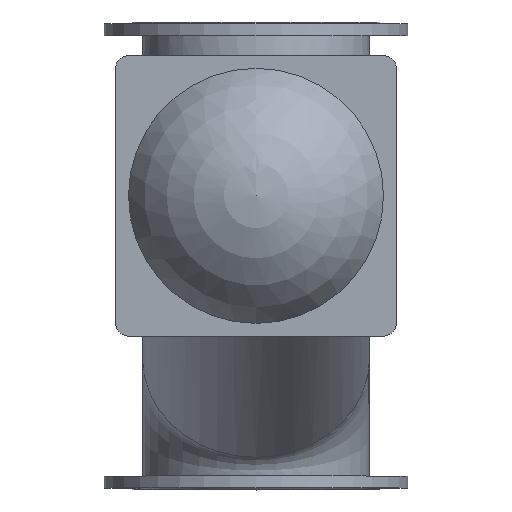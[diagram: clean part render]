
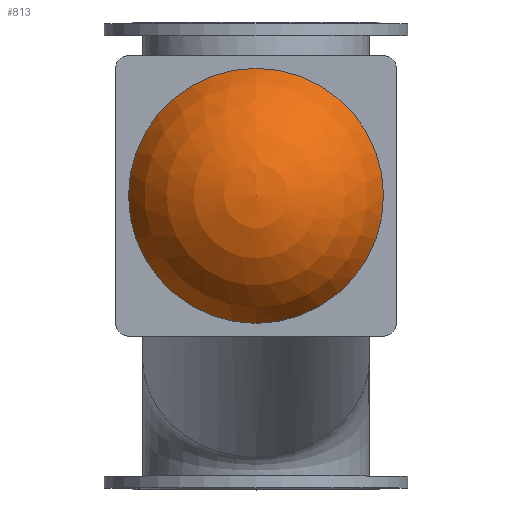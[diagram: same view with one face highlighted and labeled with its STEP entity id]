
A CAD part, top view. The second image highlights one B-rep face of the part: STEP entity #813.
In plain terms, the highlighted spherical face has radius 325 mm.
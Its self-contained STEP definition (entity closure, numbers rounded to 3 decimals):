
#813=ADVANCED_FACE('',(#1906),#1908,.T.);
#1906=FACE_OUTER_BOUND('',#1907,.T.);
#1907=EDGE_LOOP('',(#2335));
#1908=SPHERICAL_SURFACE('',#1909,325.);
#1909=AXIS2_PLACEMENT_3D('',#1910,#1911,#1912);
#1910=CARTESIAN_POINT('',(0.,140.,741.));
#1911=DIRECTION('',(0.,0.,-1.));
#1912=DIRECTION('',(0.,1.,0.));
#2335=ORIENTED_EDGE('',*,*,#2550,.T.);
#2550=EDGE_CURVE('',#2890,#2890,#2891,.F.);
#2890=VERTEX_POINT('',#4022);
#2891=CIRCLE('',#4023,300.);
#4022=CARTESIAN_POINT('',(0.,440.,866.));
#4023=AXIS2_PLACEMENT_3D('',#4024,#4025,#4026);
#4024=CARTESIAN_POINT('',(0.,140.,866.));
#4025=DIRECTION('',(0.,0.,-1.));
#4026=DIRECTION('',(0.,1.,0.));
